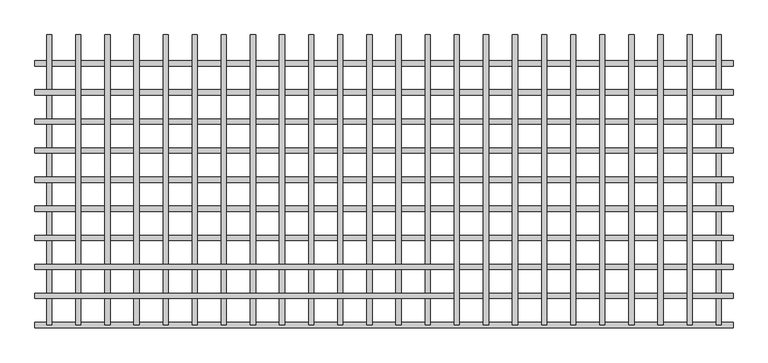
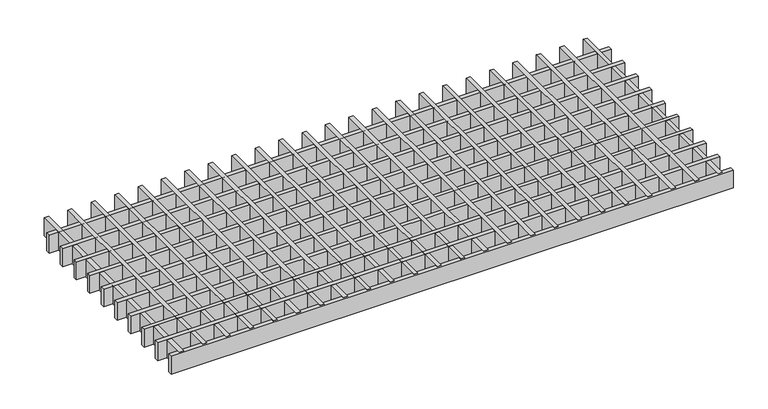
"""IFC4 building model written with IfcOpenShell, lengths in millimetres: proxy geometry, durlum_GEO_panel : durlum_GEO_9_width_cut."""

from ifc_helpers import new_model, si_unit, origin, origin_with_axes, place, context, project, spatial, polyline, outline, extrude, source, transform, mapped, element, save


def generic_models_6a16b8e9(model_context):
    return source(origin(), model_context, "Body", "SweptSolid", [
        extrude(outline(polyline([(520.5, 249.5), (529.5, 249.5), (529.5, -249.5), (520.5, -249.5), (520.5, 249.5)])), origin_with_axes(), (0.0, 0.0, 1.0), 40.0),
        extrude(outline(polyline([(470.5, 249.5), (479.5, 249.5), (479.5, -249.5), (470.5, -249.5), (470.5, 249.5)])), origin_with_axes(), (0.0, 0.0, 1.0), 40.0),
        extrude(outline(polyline([(420.5, 249.5), (429.5, 249.5), (429.5, -249.5), (420.5, -249.5), (420.5, 249.5)])), origin_with_axes(), (0.0, 0.0, 1.0), 40.0),
        extrude(outline(polyline([(370.5, 249.5), (379.5, 249.5), (379.5, -249.5), (370.5, -249.5), (370.5, 249.5)])), origin_with_axes(), (0.0, 0.0, 1.0), 40.0),
        extrude(outline(polyline([(320.5, 249.5), (329.5, 249.5), (329.5, -249.5), (320.5, -249.5), (320.5, 249.5)])), origin_with_axes(), (0.0, 0.0, 1.0), 40.0),
        extrude(outline(polyline([(270.5, 249.5), (279.5, 249.5), (279.5, -249.5), (270.5, -249.5), (270.5, 249.5)])), origin_with_axes(), (0.0, 0.0, 1.0), 40.0),
        extrude(outline(polyline([(220.5, 249.5), (229.5, 249.5), (229.5, -249.5), (220.5, -249.5), (220.5, 249.5)])), origin_with_axes(), (0.0, 0.0, 1.0), 40.0),
        extrude(outline(polyline([(170.5, 249.5), (179.5, 249.5), (179.5, -249.5), (170.5, -249.5), (170.5, 249.5)])), origin_with_axes(), (0.0, 0.0, 1.0), 40.0),
        extrude(outline(polyline([(120.5, 249.5), (129.5, 249.5), (129.5, -249.5), (120.5, -249.5), (120.5, 249.5)])), origin_with_axes(), (0.0, 0.0, 1.0), 40.0),
        extrude(outline(polyline([(599.5, -195.0), (599.5, -204.0), (-599.5, -204.0), (-599.5, -195.0), (599.5, -195.0)])), origin_with_axes(), (0.0, 0.0, 1.0), 40.0),
        extrude(outline(polyline([(599.5, -145.0), (599.5, -154.0), (-599.5, -154.0), (-599.5, -145.0), (599.5, -145.0)])), origin_with_axes(), (0.0, 0.0, 1.0), 40.0),
        extrude(outline(polyline([(70.5, 249.5), (79.5, 249.5), (79.5, -249.5), (70.5, -249.5), (70.5, 249.5)])), origin_with_axes(), (0.0, 0.0, 1.0), 40.0),
        extrude(outline(polyline([(20.5, 249.5), (29.5, 249.5), (29.5, -249.5), (20.5, -249.5), (20.5, 249.5)])), origin_with_axes(), (0.0, 0.0, 1.0), 40.0),
        extrude(outline(polyline([(-29.5, 249.5), (-20.5, 249.5), (-20.5, -249.5), (-29.5, -249.5), (-29.5, 249.5)])), origin_with_axes(), (0.0, 0.0, 1.0), 40.0),
        extrude(outline(polyline([(-79.5, 249.5), (-70.5, 249.5), (-70.5, -249.5), (-79.5, -249.5), (-79.5, 249.5)])), origin_with_axes(), (0.0, 0.0, 1.0), 40.0),
        extrude(outline(polyline([(-129.5, 249.5), (-120.5, 249.5), (-120.5, -249.5), (-129.5, -249.5), (-129.5, 249.5)])), origin_with_axes(), (0.0, 0.0, 1.0), 40.0),
        extrude(outline(polyline([(-179.5, 249.5), (-170.5, 249.5), (-170.5, -249.5), (-179.5, -249.5), (-179.5, 249.5)])), origin_with_axes(), (0.0, 0.0, 1.0), 40.0),
        extrude(outline(polyline([(-229.5, 249.5), (-220.5, 249.5), (-220.5, -249.5), (-229.5, -249.5), (-229.5, 249.5)])), origin_with_axes(), (0.0, 0.0, 1.0), 40.0),
        extrude(outline(polyline([(-279.5, 249.5), (-270.5, 249.5), (-270.5, -249.5), (-279.5, -249.5), (-279.5, 249.5)])), origin_with_axes(), (0.0, 0.0, 1.0), 40.0),
        extrude(outline(polyline([(-329.5, 249.5), (-320.5, 249.5), (-320.5, -249.5), (-329.5, -249.5), (-329.5, 249.5)])), origin_with_axes(), (0.0, 0.0, 1.0), 40.0),
        extrude(outline(polyline([(-379.5, 249.5), (-370.5, 249.5), (-370.5, -249.5), (-379.5, -249.5), (-379.5, 249.5)])), origin_with_axes(), (0.0, 0.0, 1.0), 40.0),
        extrude(outline(polyline([(-429.5, 249.5), (-420.5, 249.5), (-420.5, -249.5), (-429.5, -249.5), (-429.5, 249.5)])), origin_with_axes(), (0.0, 0.0, 1.0), 40.0),
        extrude(outline(polyline([(-479.5, 249.5), (-470.5, 249.5), (-470.5, -249.5), (-479.5, -249.5), (-479.5, 249.5)])), origin_with_axes(), (0.0, 0.0, 1.0), 40.0),
        extrude(outline(polyline([(-529.5, 249.5), (-520.5, 249.5), (-520.5, -249.5), (-529.5, -249.5), (-529.5, 249.5)])), origin_with_axes(), (0.0, 0.0, 1.0), 40.0),
        extrude(outline(polyline([(599.5, -95.0), (599.5, -104.0), (-599.5, -104.0), (-599.5, -95.0), (599.5, -95.0)])), origin_with_axes(), (0.0, 0.0, 1.0), 40.0),
        extrude(outline(polyline([(599.5, -45.0), (599.5, -54.0), (-599.5, -54.0), (-599.5, -45.0), (599.5, -45.0)])), origin_with_axes(), (0.0, 0.0, 1.0), 40.0),
        extrude(outline(polyline([(599.5, 5.0), (599.5, -4.0), (-599.5, -4.0), (-599.5, 5.0), (599.5, 5.0)])), origin_with_axes(), (0.0, 0.0, 1.0), 40.0),
        extrude(outline(polyline([(599.5, 55.0), (599.5, 46.0), (-599.5, 46.0), (-599.5, 55.0), (599.5, 55.0)])), origin_with_axes(), (0.0, 0.0, 1.0), 40.0),
        extrude(outline(polyline([(599.5, 105.0), (599.5, 96.0), (-599.5, 96.0), (-599.5, 105.0), (599.5, 105.0)])), origin_with_axes(), (0.0, 0.0, 1.0), 40.0),
        extrude(outline(polyline([(599.5, 155.0), (599.5, 146.0), (-599.5, 146.0), (-599.5, 155.0), (599.5, 155.0)])), origin_with_axes(), (0.0, 0.0, 1.0), 40.0),
        extrude(outline(polyline([(570.5, 249.5), (579.5, 249.5), (579.5, -249.5), (570.5, -249.5), (570.5, 249.5)])), origin_with_axes(), (0.0, 0.0, 1.0), 40.0),
        extrude(outline(polyline([(-579.5, 249.5), (-570.5, 249.5), (-570.5, -249.5), (-579.5, -249.5), (-579.5, 249.5)])), origin_with_axes(), (0.0, 0.0, 1.0), 40.0),
        extrude(outline(polyline([(599.5, -245.0), (599.5, -254.0), (-599.5, -254.0), (-599.5, -245.0), (599.5, -245.0)])), origin_with_axes(), (0.0, 0.0, 1.0), 40.0),
        extrude(outline(polyline([(599.5, 205.0), (599.5, 196.0), (-599.5, 196.0), (-599.5, 205.0), (599.5, 205.0)])), origin_with_axes(), (0.0, 0.0, 1.0), 40.0),
    ])


if __name__ == "__main__":
    model = new_model("IFC4")
    model_context = context("Model", 3, world=origin())
    ifc_project = project(units=[si_unit("LENGTHUNIT", "METRE", prefix="MILLI")], contexts=[model_context])
    site = spatial("IfcSite", under=ifc_project)
    building = spatial("IfcBuilding", under=site)
    placement = place(None, origin())
    generic_models_shape = generic_models_6a16b8e9(model_context)
    element("IfcBuildingElementProxy", 1, Name="durlum_GEO_panel : durlum_GEO_9_width_cut", ObjectType="durlum_GEO_panel : durlum_GEO_9_width_cut", at=placement, inside=building, context=model_context, shape_type="MappedRepresentation", body=[
        mapped(generic_models_shape, transform((0.0, 0.0, 0.0), x_axis=(1.0, 0.0, 0.0), y_axis=(0.0, 1.0, 0.0), z_axis=(0.0, 0.0, 1.0))),
    ])
    save(model, "model.ifc")
